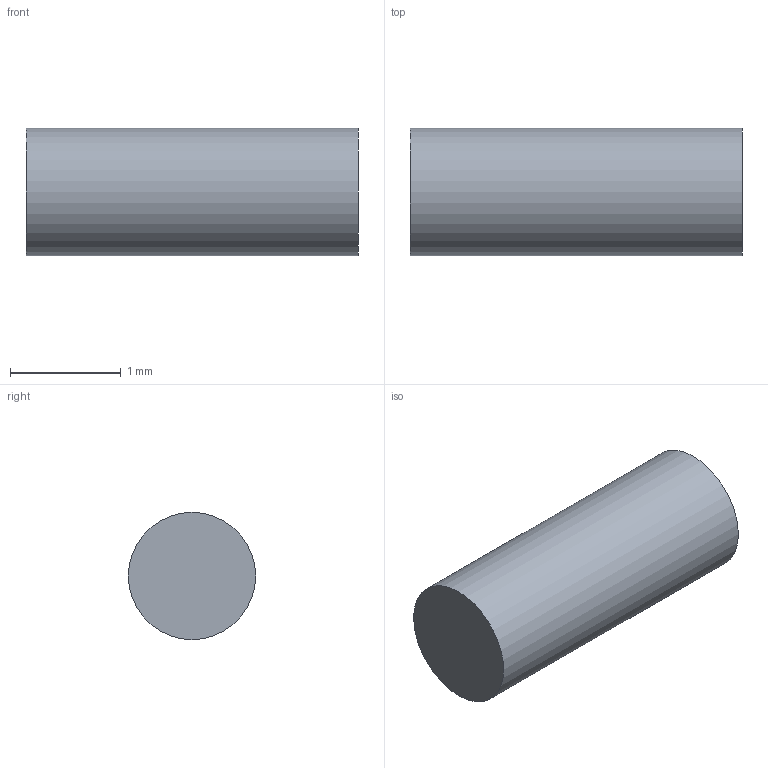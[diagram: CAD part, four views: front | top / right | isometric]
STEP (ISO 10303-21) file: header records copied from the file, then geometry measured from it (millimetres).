
FILE_DESCRIPTION(('Open CASCADE Model'),'2;1');
FILE_NAME('R36_LED_SPLICE_4_INSULATION_ALLOWANCE','2026-09-15T14:14:50', ('Author'),('Open CASCADE'),'Open CASCADE STEP processor 7.9', 'build123d','Unknown');
FILE_SCHEMA(('AUTOMOTIVE_DESIGN { 1 0 10303 214 1 1 1 1 }'));
Length unit declared in the file: millimetre
Products named in the file (1): R36_LED_SPLICE_4_INSULATION_ALLOWANCE
Bounding box: 3 x 1.15 x 1.15 mm (x, y, z)
Volume: 3.1 mm3; surface area: 12.9 mm2
Topology: 1 solids, 1 shells, 3 faces, 3 edges, 2 vertices
Faces by surface type: plane 2, cylinder 1
Full cylindrical faces by diameter (mm): 1.15 x1
Entity records: 108 total; most frequent: DIRECTION 19, CARTESIAN_POINT 15, AXIS2_PLACEMENT_3D 6, ORIENTED_EDGE 6, PCURVE 6, DEFINITIONAL_REPRESENTATION 6, LINE 5, VECTOR 5
